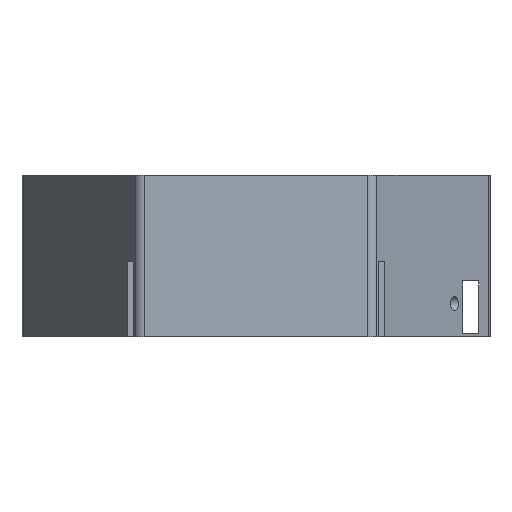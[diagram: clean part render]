
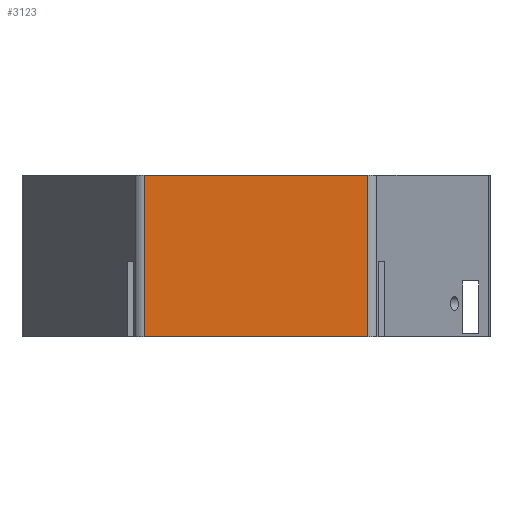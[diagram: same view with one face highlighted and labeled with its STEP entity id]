
A CAD part, left-side view. The second image highlights one B-rep face of the part: STEP entity #3123.
In plain terms, the highlighted planar face has unit normal (-1, 0, 0).
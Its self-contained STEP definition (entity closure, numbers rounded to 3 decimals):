
#44 = PLANE('',#45);
#45 = AXIS2_PLACEMENT_3D('',#46,#47,#48);
#46 = CARTESIAN_POINT('',(0.,0.,2.6));
#47 = DIRECTION('',(0.,0.,1.));
#48 = DIRECTION('',(1.,0.,-0.));
#100 = PLANE('',#101);
#101 = AXIS2_PLACEMENT_3D('',#102,#103,#104);
#102 = CARTESIAN_POINT('',(0.,0.,24.));
#103 = DIRECTION('',(0.,0.,1.));
#104 = DIRECTION('',(1.,0.,-0.));
#448 = VERTEX_POINT('',#449);
#449 = CARTESIAN_POINT('',(-27.,14.78,2.6));
#464 = CYLINDRICAL_SURFACE('',#465,1.4);
#465 = AXIS2_PLACEMENT_3D('',#466,#467,#468);
#466 = CARTESIAN_POINT('',(-25.6,14.78,2.6));
#467 = DIRECTION('',(0.,0.,1.));
#468 = DIRECTION('',(-0.5,0.866,0.));
#476 = EDGE_CURVE('',#448,#477,#479,.T.);
#477 = VERTEX_POINT('',#478);
#478 = CARTESIAN_POINT('',(-27.,-14.78,2.6));
#479 = SURFACE_CURVE('',#480,(#484,#491),.PCURVE_S1.);
#480 = LINE('',#481,#482);
#481 = CARTESIAN_POINT('',(-27.,15.588,2.6));
#482 = VECTOR('',#483,1.);
#483 = DIRECTION('',(0.,-1.,0.));
#484 = PCURVE('',#44,#485);
#485 = DEFINITIONAL_REPRESENTATION('',(#486),#490);
#486 = LINE('',#487,#488);
#487 = CARTESIAN_POINT('',(-27.,15.588));
#488 = VECTOR('',#489,1.);
#489 = DIRECTION('',(0.,-1.));
#490 = ( GEOMETRIC_REPRESENTATION_CONTEXT(2) 
PARAMETRIC_REPRESENTATION_CONTEXT() REPRESENTATION_CONTEXT('2D SPACE',''
  ) );
#491 = PCURVE('',#492,#497);
#492 = PLANE('',#493);
#493 = AXIS2_PLACEMENT_3D('',#494,#495,#496);
#494 = CARTESIAN_POINT('',(-27.,15.588,2.6));
#495 = DIRECTION('',(1.,0.,-0.));
#496 = DIRECTION('',(0.,-1.,0.));
#497 = DEFINITIONAL_REPRESENTATION('',(#498),#502);
#498 = LINE('',#499,#500);
#499 = CARTESIAN_POINT('',(0.,0.));
#500 = VECTOR('',#501,1.);
#501 = DIRECTION('',(1.,0.));
#502 = ( GEOMETRIC_REPRESENTATION_CONTEXT(2) 
PARAMETRIC_REPRESENTATION_CONTEXT() REPRESENTATION_CONTEXT('2D SPACE',''
  ) );
#521 = CYLINDRICAL_SURFACE('',#522,1.4);
#522 = AXIS2_PLACEMENT_3D('',#523,#524,#525);
#523 = CARTESIAN_POINT('',(-25.6,-14.78,2.6));
#524 = DIRECTION('',(0.,0.,1.));
#525 = DIRECTION('',(-1.,0.,0.));
#1830 = VERTEX_POINT('',#1831);
#1831 = CARTESIAN_POINT('',(-27.,14.78,24.));
#1853 = EDGE_CURVE('',#1830,#1854,#1856,.T.);
#1854 = VERTEX_POINT('',#1855);
#1855 = CARTESIAN_POINT('',(-27.,-14.78,24.));
#1856 = SURFACE_CURVE('',#1857,(#1861,#1868),.PCURVE_S1.);
#1857 = LINE('',#1858,#1859);
#1858 = CARTESIAN_POINT('',(-27.,15.588,24.));
#1859 = VECTOR('',#1860,1.);
#1860 = DIRECTION('',(0.,-1.,0.));
#1861 = PCURVE('',#100,#1862);
#1862 = DEFINITIONAL_REPRESENTATION('',(#1863),#1867);
#1863 = LINE('',#1864,#1865);
#1864 = CARTESIAN_POINT('',(-27.,15.588));
#1865 = VECTOR('',#1866,1.);
#1866 = DIRECTION('',(0.,-1.));
#1867 = ( GEOMETRIC_REPRESENTATION_CONTEXT(2) 
PARAMETRIC_REPRESENTATION_CONTEXT() REPRESENTATION_CONTEXT('2D SPACE',''
  ) );
#1868 = PCURVE('',#492,#1869);
#1869 = DEFINITIONAL_REPRESENTATION('',(#1870),#1874);
#1870 = LINE('',#1871,#1872);
#1871 = CARTESIAN_POINT('',(0.,-21.4));
#1872 = VECTOR('',#1873,1.);
#1873 = DIRECTION('',(1.,0.));
#1874 = ( GEOMETRIC_REPRESENTATION_CONTEXT(2) 
PARAMETRIC_REPRESENTATION_CONTEXT() REPRESENTATION_CONTEXT('2D SPACE',''
  ) );
#3101 = EDGE_CURVE('',#448,#1830,#3102,.T.);
#3102 = SURFACE_CURVE('',#3103,(#3107,#3114),.PCURVE_S1.);
#3103 = LINE('',#3104,#3105);
#3104 = CARTESIAN_POINT('',(-27.,14.78,2.6));
#3105 = VECTOR('',#3106,1.);
#3106 = DIRECTION('',(0.,0.,1.));
#3107 = PCURVE('',#464,#3108);
#3108 = DEFINITIONAL_REPRESENTATION('',(#3109),#3113);
#3109 = LINE('',#3110,#3111);
#3110 = CARTESIAN_POINT('',(1.047,0.));
#3111 = VECTOR('',#3112,1.);
#3112 = DIRECTION('',(0.,1.));
#3113 = ( GEOMETRIC_REPRESENTATION_CONTEXT(2) 
PARAMETRIC_REPRESENTATION_CONTEXT() REPRESENTATION_CONTEXT('2D SPACE',''
  ) );
#3114 = PCURVE('',#492,#3115);
#3115 = DEFINITIONAL_REPRESENTATION('',(#3116),#3120);
#3116 = LINE('',#3117,#3118);
#3117 = CARTESIAN_POINT('',(0.808,0.));
#3118 = VECTOR('',#3119,1.);
#3119 = DIRECTION('',(0.,-1.));
#3120 = ( GEOMETRIC_REPRESENTATION_CONTEXT(2) 
PARAMETRIC_REPRESENTATION_CONTEXT() REPRESENTATION_CONTEXT('2D SPACE',''
  ) );
#3123 = ADVANCED_FACE('',(#3124),#492,.F.);
#3124 = FACE_BOUND('',#3125,.F.);
#3125 = EDGE_LOOP('',(#3126,#3127,#3128,#3129));
#3126 = ORIENTED_EDGE('',*,*,#476,.F.);
#3127 = ORIENTED_EDGE('',*,*,#3101,.T.);
#3128 = ORIENTED_EDGE('',*,*,#1853,.T.);
#3129 = ORIENTED_EDGE('',*,*,#3130,.F.);
#3130 = EDGE_CURVE('',#477,#1854,#3131,.T.);
#3131 = SURFACE_CURVE('',#3132,(#3136,#3143),.PCURVE_S1.);
#3132 = LINE('',#3133,#3134);
#3133 = CARTESIAN_POINT('',(-27.,-14.78,2.6));
#3134 = VECTOR('',#3135,1.);
#3135 = DIRECTION('',(0.,0.,1.));
#3136 = PCURVE('',#492,#3137);
#3137 = DEFINITIONAL_REPRESENTATION('',(#3138),#3142);
#3138 = LINE('',#3139,#3140);
#3139 = CARTESIAN_POINT('',(30.369,0.));
#3140 = VECTOR('',#3141,1.);
#3141 = DIRECTION('',(0.,-1.));
#3142 = ( GEOMETRIC_REPRESENTATION_CONTEXT(2) 
PARAMETRIC_REPRESENTATION_CONTEXT() REPRESENTATION_CONTEXT('2D SPACE',''
  ) );
#3143 = PCURVE('',#521,#3144);
#3144 = DEFINITIONAL_REPRESENTATION('',(#3145),#3149);
#3145 = LINE('',#3146,#3147);
#3146 = CARTESIAN_POINT('',(0.,0.));
#3147 = VECTOR('',#3148,1.);
#3148 = DIRECTION('',(0.,1.));
#3149 = ( GEOMETRIC_REPRESENTATION_CONTEXT(2) 
PARAMETRIC_REPRESENTATION_CONTEXT() REPRESENTATION_CONTEXT('2D SPACE',''
  ) );
